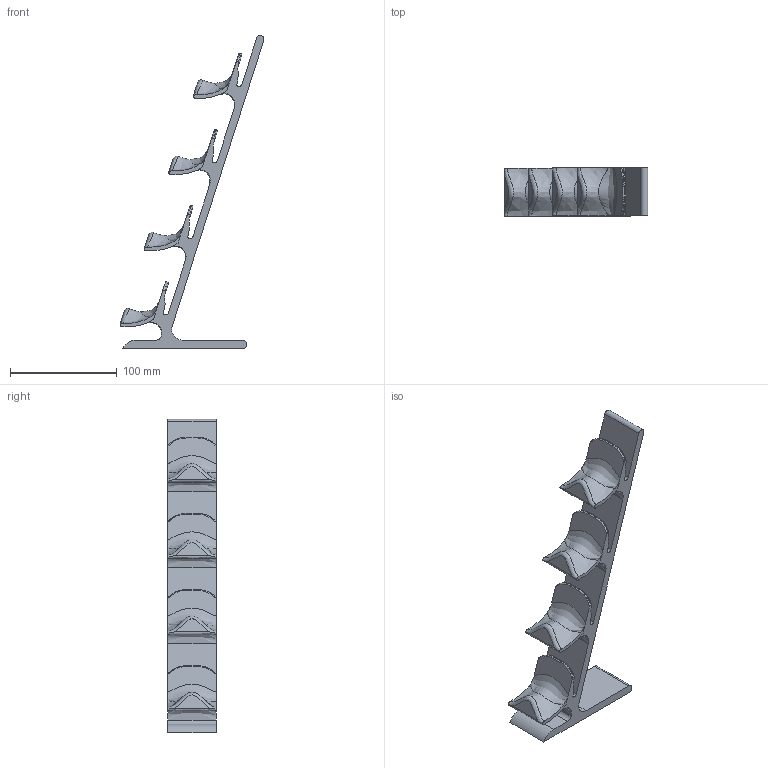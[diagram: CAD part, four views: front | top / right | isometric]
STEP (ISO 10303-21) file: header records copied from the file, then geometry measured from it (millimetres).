
FILE_DESCRIPTION(/* description */ (''),/* implementation_level */ '2;1');
FILE_NAME(/* name */ 'Support lunettes - prsentoire V2 4 places.step',/* time_stamp */ '2025-07-16T16:14:44+02:00',/* author */ (''),/* organization */ (''),/* preprocessor_version */ 'ST-DEVELOPER v20.1',/* originating_system */ 'Autodesk Translation Framework v14.10.0.0',/* authorisation */ '');
FILE_SCHEMA (('AUTOMOTIVE_DESIGN { 1 0 10303 214 3 1 1 }'));
Length unit declared in the file: millimetre
Products named in the file (1): Support lunettes - présentoire 4 places
Bounding box: 134.96 x 45 x 293.67 mm (x, y, z)
Volume: 235635.3 mm3; surface area: 70616.9 mm2
Topology: 1 solids, 1 shells, 446 faces, 1274 edges, 844 vertices
Faces by surface type: bspline 323, plane 93, cylinder 30
Entity records: 21564 total; most frequent: CARTESIAN_POINT 12478, ORIENTED_EDGE 2548, EDGE_CURVE 1274, DIRECTION 894, VERTEX_POINT 844, LINE 526, VECTOR 526, B_SPLINE_CURVE_WITH_KNOTS 490
